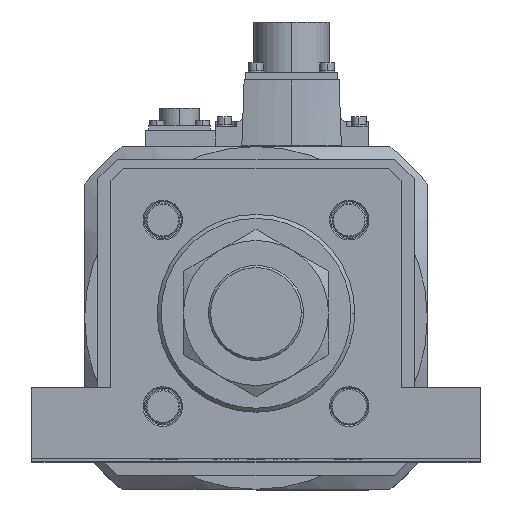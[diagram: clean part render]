
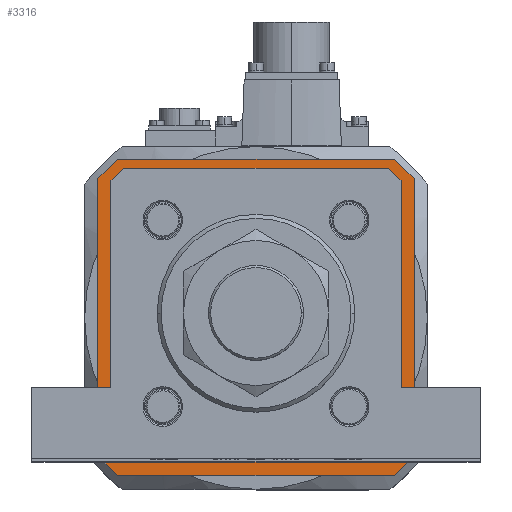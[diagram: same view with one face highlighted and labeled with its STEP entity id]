
A CAD part, top view. The second image highlights one B-rep face of the part: STEP entity #3316.
In plain terms, the highlighted planar face has unit normal (0, 0, 1) as drawn and (0, 0, -1) by its records, which use the part's own axes.
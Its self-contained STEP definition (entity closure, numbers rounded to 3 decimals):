
#13 = CARTESIAN_POINT ( 'NONE',  ( 60., 52.5, 52. ) ) ;
#128 = CARTESIAN_POINT ( 'NONE',  ( -53.5, 49.593, 52. ) ) ;
#154 = VERTEX_POINT ( 'NONE', #1498 ) ;
#169 = EDGE_CURVE ( 'NONE', #24752, #29659, #9734, .T. ) ;
#1057 = VECTOR ( 'NONE', #27559, 1000. ) ;
#1498 = CARTESIAN_POINT ( 'NONE',  ( -52.5, -60., 52. ) ) ;
#1566 = VERTEX_POINT ( 'NONE', #13 ) ;
#1806 = EDGE_CURVE ( 'NONE', #15419, #26136, #11078, .T. ) ;
#2154 = CARTESIAN_POINT ( 'NONE',  ( -49.8, 53.5, 52. ) ) ;
#2918 = EDGE_CURVE ( 'NONE', #23593, #24752, #17001, .T. ) ;
#2958 = CARTESIAN_POINT ( 'NONE',  ( 0., 0., 52. ) ) ;
#3161 = ORIENTED_EDGE ( 'NONE', *, *, #12171, .F. ) ;
#3185 = CARTESIAN_POINT ( 'NONE',  ( 53.5, 49.593, 52. ) ) ;
#3316 = ADVANCED_FACE ( 'NONE', ( #17901, #17464 ), #17622, .F. ) ;
#3629 = EDGE_CURVE ( 'NONE', #29659, #15419, #10487, .T. ) ;
#3738 = CARTESIAN_POINT ( 'NONE',  ( -60., 60., 52. ) ) ;
#3820 = ORIENTED_EDGE ( 'NONE', *, *, #18002, .T. ) ;
#4082 = ORIENTED_EDGE ( 'NONE', *, *, #5588, .T. ) ;
#4304 = CARTESIAN_POINT ( 'NONE',  ( 49.8, -53.5, 52. ) ) ;
#4728 = CARTESIAN_POINT ( 'NONE',  ( 51.546, -51.546, 52. ) ) ;
#4892 = VERTEX_POINT ( 'NONE', #21617 ) ;
#5003 = CARTESIAN_POINT ( 'NONE',  ( -60., 52.5, 52. ) ) ;
#5044 = ORIENTED_EDGE ( 'NONE', *, *, #16920, .F. ) ;
#5588 = EDGE_CURVE ( 'NONE', #26136, #5772, #10345, .T. ) ;
#5693 = DIRECTION ( 'NONE',  ( 0.707, 0.707, 0. ) ) ;
#5772 = VERTEX_POINT ( 'NONE', #9201 ) ;
#6009 = LINE ( 'NONE', #26628, #11060 ) ;
#6024 = VECTOR ( 'NONE', #32672, 1000. ) ;
#6147 = CARTESIAN_POINT ( 'NONE',  ( 53.5, 49.8, 52. ) ) ;
#6915 = LINE ( 'NONE', #7097, #29501 ) ;
#7078 = ORIENTED_EDGE ( 'NONE', *, *, #18348, .T. ) ;
#7097 = CARTESIAN_POINT ( 'NONE',  ( 60., -52.5, 52. ) ) ;
#7525 = VERTEX_POINT ( 'NONE', #12145 ) ;
#8070 = VECTOR ( 'NONE', #10474, 1000. ) ;
#8189 = VECTOR ( 'NONE', #37284, 1000. ) ;
#8599 = LINE ( 'NONE', #31586, #25210 ) ;
#8734 = EDGE_CURVE ( 'NONE', #4892, #1566, #12491, .T. ) ;
#9073 = EDGE_CURVE ( 'NONE', #26157, #23593, #6009, .T. ) ;
#9201 = CARTESIAN_POINT ( 'NONE',  ( 49.593, 53.5, 52. ) ) ;
#9496 = DIRECTION ( 'NONE',  ( 0., -1., 0. ) ) ;
#9728 = DIRECTION ( 'NONE',  ( 1., 0., 0. ) ) ;
#9734 = LINE ( 'NONE', #4304, #28622 ) ;
#10053 = ORIENTED_EDGE ( 'NONE', *, *, #21362, .T. ) ;
#10177 = ORIENTED_EDGE ( 'NONE', *, *, #2918, .T. ) ;
#10345 = LINE ( 'NONE', #32030, #26520 ) ;
#10474 = DIRECTION ( 'NONE',  ( -1., 0., 0. ) ) ;
#10487 = LINE ( 'NONE', #4728, #8189 ) ;
#10567 = VECTOR ( 'NONE', #24844, 1000. ) ;
#11060 = VECTOR ( 'NONE', #9496, 1000. ) ;
#11078 = LINE ( 'NONE', #6147, #6024 ) ;
#11329 = CARTESIAN_POINT ( 'NONE',  ( -60., -60., 52. ) ) ;
#11501 = ORIENTED_EDGE ( 'NONE', *, *, #18188, .F. ) ;
#11708 = LINE ( 'NONE', #17283, #31056 ) ;
#12145 = CARTESIAN_POINT ( 'NONE',  ( -52.5, 60., 52. ) ) ;
#12155 = DIRECTION ( 'NONE',  ( -0.707, 0.707, 0. ) ) ;
#12171 = EDGE_CURVE ( 'NONE', #33887, #31173, #8599, .T. ) ;
#12382 = VECTOR ( 'NONE', #37897, 1000. ) ;
#12453 = VECTOR ( 'NONE', #23809, 1000. ) ;
#12491 = LINE ( 'NONE', #19100, #30900 ) ;
#12754 = CARTESIAN_POINT ( 'NONE',  ( 52.5, 60., 52. ) ) ;
#13948 = ORIENTED_EDGE ( 'NONE', *, *, #3629, .T. ) ;
#14995 = EDGE_CURVE ( 'NONE', #33887, #7525, #11708, .T. ) ;
#15374 = VERTEX_POINT ( 'NONE', #33990 ) ;
#15419 = VERTEX_POINT ( 'NONE', #24964 ) ;
#16004 = DIRECTION ( 'NONE',  ( 1., 0., 0. ) ) ;
#16920 = EDGE_CURVE ( 'NONE', #15374, #7525, #17171, .T. ) ;
#17001 = LINE ( 'NONE', #36321, #10567 ) ;
#17028 = ORIENTED_EDGE ( 'NONE', *, *, #14995, .T. ) ;
#17171 = LINE ( 'NONE', #3738, #1057 ) ;
#17283 = CARTESIAN_POINT ( 'NONE',  ( -60., 52.5, 52. ) ) ;
#17464 = FACE_OUTER_BOUND ( 'NONE', #32375, .T. ) ;
#17597 = ORIENTED_EDGE ( 'NONE', *, *, #9073, .T. ) ;
#17622 = PLANE ( 'NONE',  #28669 ) ;
#17647 = ORIENTED_EDGE ( 'NONE', *, *, #19308, .T. ) ;
#17901 = FACE_BOUND ( 'NONE', #22753, .T. ) ;
#18002 = EDGE_CURVE ( 'NONE', #4892, #25002, #6915, .T. ) ;
#18188 = EDGE_CURVE ( 'NONE', #154, #25002, #19832, .T. ) ;
#18348 = EDGE_CURVE ( 'NONE', #15374, #1566, #29469, .T. ) ;
#18752 = DIRECTION ( 'NONE',  ( 0., 0., 1. ) ) ;
#19100 = CARTESIAN_POINT ( 'NONE',  ( 60., 60., 52. ) ) ;
#19308 = EDGE_CURVE ( 'NONE', #24082, #26157, #34021, .T. ) ;
#19453 = DIRECTION ( 'NONE',  ( -0.707, -0.707, 0. ) ) ;
#19832 = LINE ( 'NONE', #11329, #12453 ) ;
#19988 = CARTESIAN_POINT ( 'NONE',  ( -51.546, 51.546, 52. ) ) ;
#20590 = ORIENTED_EDGE ( 'NONE', *, *, #169, .T. ) ;
#21362 = EDGE_CURVE ( 'NONE', #154, #31173, #26999, .T. ) ;
#21439 = ORIENTED_EDGE ( 'NONE', *, *, #33184, .T. ) ;
#21564 = CARTESIAN_POINT ( 'NONE',  ( -49.593, 53.5, 52. ) ) ;
#21617 = CARTESIAN_POINT ( 'NONE',  ( 60., -52.5, 52. ) ) ;
#22753 = EDGE_LOOP ( 'NONE', ( #4082, #21439, #17647, #17597, #10177, #20590, #13948, #30025 ) ) ;
#22976 = VECTOR ( 'NONE', #24434, 1000. ) ;
#23593 = VERTEX_POINT ( 'NONE', #28322 ) ;
#23809 = DIRECTION ( 'NONE',  ( 1., 0., 0. ) ) ;
#24082 = VERTEX_POINT ( 'NONE', #21564 ) ;
#24434 = DIRECTION ( 'NONE',  ( 0.707, -0.707, 0. ) ) ;
#24752 = VERTEX_POINT ( 'NONE', #27862 ) ;
#24844 = DIRECTION ( 'NONE',  ( 0.707, -0.707, 0. ) ) ;
#24964 = CARTESIAN_POINT ( 'NONE',  ( 53.5, -49.593, 52. ) ) ;
#25002 = VERTEX_POINT ( 'NONE', #34786 ) ;
#25210 = VECTOR ( 'NONE', #28864, 1000. ) ;
#25440 = CARTESIAN_POINT ( 'NONE',  ( 49.593, -53.5, 52. ) ) ;
#26136 = VERTEX_POINT ( 'NONE', #3185 ) ;
#26157 = VERTEX_POINT ( 'NONE', #128 ) ;
#26520 = VECTOR ( 'NONE', #37963, 1000. ) ;
#26628 = CARTESIAN_POINT ( 'NONE',  ( -53.5, -49.8, 52. ) ) ;
#26999 = LINE ( 'NONE', #29778, #31140 ) ;
#27382 = ORIENTED_EDGE ( 'NONE', *, *, #8734, .F. ) ;
#27456 = LINE ( 'NONE', #2154, #8070 ) ;
#27559 = DIRECTION ( 'NONE',  ( -1., 0., 0. ) ) ;
#27862 = CARTESIAN_POINT ( 'NONE',  ( -49.593, -53.5, 52. ) ) ;
#28322 = CARTESIAN_POINT ( 'NONE',  ( -53.5, -49.593, 52. ) ) ;
#28622 = VECTOR ( 'NONE', #16004, 1000. ) ;
#28669 = AXIS2_PLACEMENT_3D ( 'NONE', #2958, #18752, #9728 ) ;
#28795 = CARTESIAN_POINT ( 'NONE',  ( -60., -52.5, 52. ) ) ;
#28864 = DIRECTION ( 'NONE',  ( 0., -1., 0. ) ) ;
#29469 = LINE ( 'NONE', #12754, #22976 ) ;
#29501 = VECTOR ( 'NONE', #19453, 1000. ) ;
#29659 = VERTEX_POINT ( 'NONE', #25440 ) ;
#29778 = CARTESIAN_POINT ( 'NONE',  ( -52.5, -60., 52. ) ) ;
#30025 = ORIENTED_EDGE ( 'NONE', *, *, #1806, .T. ) ;
#30900 = VECTOR ( 'NONE', #33523, 1000. ) ;
#31056 = VECTOR ( 'NONE', #5693, 1000. ) ;
#31140 = VECTOR ( 'NONE', #12155, 1000. ) ;
#31173 = VERTEX_POINT ( 'NONE', #28795 ) ;
#31586 = CARTESIAN_POINT ( 'NONE',  ( -60., 60., 52. ) ) ;
#32030 = CARTESIAN_POINT ( 'NONE',  ( 51.546, 51.546, 52. ) ) ;
#32375 = EDGE_LOOP ( 'NONE', ( #11501, #10053, #3161, #17028, #5044, #7078, #27382, #3820 ) ) ;
#32672 = DIRECTION ( 'NONE',  ( 0., 1., 0. ) ) ;
#33184 = EDGE_CURVE ( 'NONE', #5772, #24082, #27456, .T. ) ;
#33523 = DIRECTION ( 'NONE',  ( 0., 1., 0. ) ) ;
#33887 = VERTEX_POINT ( 'NONE', #5003 ) ;
#33990 = CARTESIAN_POINT ( 'NONE',  ( 52.5, 60., 52. ) ) ;
#34021 = LINE ( 'NONE', #19988, #12382 ) ;
#34786 = CARTESIAN_POINT ( 'NONE',  ( 52.5, -60., 52. ) ) ;
#36321 = CARTESIAN_POINT ( 'NONE',  ( -51.546, -51.546, 52. ) ) ;
#37284 = DIRECTION ( 'NONE',  ( 0.707, 0.707, 0. ) ) ;
#37897 = DIRECTION ( 'NONE',  ( -0.707, -0.707, 0. ) ) ;
#37963 = DIRECTION ( 'NONE',  ( -0.707, 0.707, 0. ) ) ;
